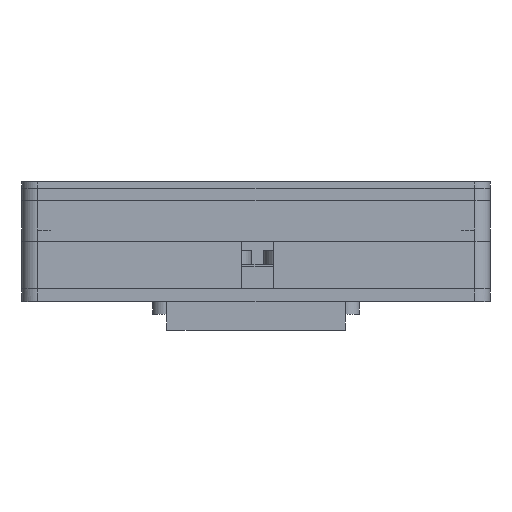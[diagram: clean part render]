
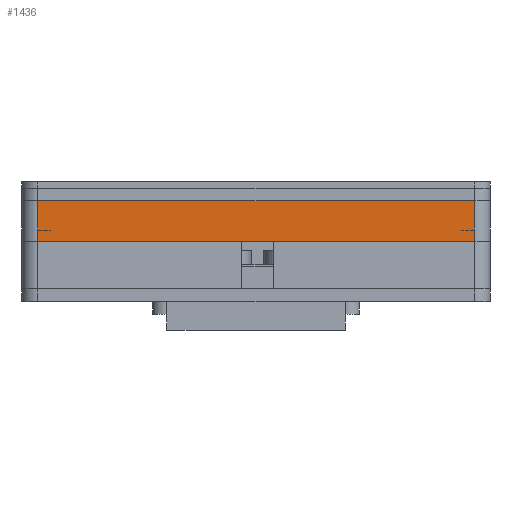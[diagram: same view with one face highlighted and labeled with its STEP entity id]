
A CAD part, front view. The second image highlights one B-rep face of the part: STEP entity #1436.
In plain terms, the highlighted free-form (B-spline) face has degree [2, 1] with [3, 2] control points.
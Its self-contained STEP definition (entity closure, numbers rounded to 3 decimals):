
#1436=ADVANCED_FACE('',(#2083),#10533,.T.);
#2083=FACE_OUTER_BOUND('',#2804,.T.);
#2804=EDGE_LOOP('',(#5197,#5198,#5199,#5200));
#5197=ORIENTED_EDGE('',*,*,#7113,.T.);
#5198=ORIENTED_EDGE('',*,*,#7100,.T.);
#5199=ORIENTED_EDGE('',*,*,#7114,.F.);
#5200=ORIENTED_EDGE('',*,*,#7111,.F.);
#7100=EDGE_CURVE('',#9710,#9713,#8574,.T.);
#7111=EDGE_CURVE('',#9720,#9721,#8585,.T.);
#7113=EDGE_CURVE('',#9720,#9710,#8587,.T.);
#7114=EDGE_CURVE('',#9721,#9713,#8588,.T.);
#8574=(
BOUNDED_CURVE()
B_SPLINE_CURVE(1,(#20016,#20017),.UNSPECIFIED.,.F.,.F.)
B_SPLINE_CURVE_WITH_KNOTS((2,2),(0.,6.3),.UNSPECIFIED.)
CURVE()
GEOMETRIC_REPRESENTATION_ITEM()
RATIONAL_B_SPLINE_CURVE((1.,1.))
REPRESENTATION_ITEM('')
);
#8585=(
BOUNDED_CURVE()
B_SPLINE_CURVE(1,(#20053,#20054),.UNSPECIFIED.,.F.,.F.)
B_SPLINE_CURVE_WITH_KNOTS((2,2),(0.,6.3),.UNSPECIFIED.)
CURVE()
GEOMETRIC_REPRESENTATION_ITEM()
RATIONAL_B_SPLINE_CURVE((1.,1.))
REPRESENTATION_ITEM('')
);
#8587=(
BOUNDED_CURVE()
B_SPLINE_CURVE(2,(#20058,#20059,#20060),.UNSPECIFIED.,.F.,.F.)
B_SPLINE_CURVE_WITH_KNOTS((3,3),(-25.167,-24.235),
 .UNSPECIFIED.)
CURVE()
GEOMETRIC_REPRESENTATION_ITEM()
RATIONAL_B_SPLINE_CURVE((1.,1.,1.))
REPRESENTATION_ITEM('')
);
#8588=(
BOUNDED_CURVE()
B_SPLINE_CURVE(2,(#20061,#20062,#20063),.UNSPECIFIED.,.F.,.F.)
B_SPLINE_CURVE_WITH_KNOTS((3,3),(-25.167,-24.235),
 .UNSPECIFIED.)
CURVE()
GEOMETRIC_REPRESENTATION_ITEM()
RATIONAL_B_SPLINE_CURVE((1.,1.,1.))
REPRESENTATION_ITEM('')
);
#9710=VERTEX_POINT('',#19980);
#9713=VERTEX_POINT('',#19983);
#9720=VERTEX_POINT('',#19990);
#9721=VERTEX_POINT('',#19991);
#10533=(
BOUNDED_SURFACE()
B_SPLINE_SURFACE(2,1,((#19924,#19925),(#19926,#19927),(#19928,#19929)),
 .UNSPECIFIED.,.F.,.F.,.F.)
B_SPLINE_SURFACE_WITH_KNOTS((3,3),(2,2),(-25.167,-24.235),
(0.,6.3),.UNSPECIFIED.)
GEOMETRIC_REPRESENTATION_ITEM()
RATIONAL_B_SPLINE_SURFACE(((1.,1.),(1.,1.),(1.,1.)))
REPRESENTATION_ITEM('')
SURFACE()
);
#19924=CARTESIAN_POINT('',(32069.342,-14230.89,15.8));
#19925=CARTESIAN_POINT('',(32069.342,-14230.89,9.5));
#19926=CARTESIAN_POINT('',(32035.092,-14230.89,15.8));
#19927=CARTESIAN_POINT('',(32035.092,-14230.89,9.5));
#19928=CARTESIAN_POINT('',(32000.842,-14230.89,15.8));
#19929=CARTESIAN_POINT('',(32000.842,-14230.89,9.5));
#19980=CARTESIAN_POINT('',(32000.842,-14230.89,15.8));
#19983=CARTESIAN_POINT('',(32000.842,-14230.89,9.5));
#19990=CARTESIAN_POINT('',(32069.342,-14230.89,15.8));
#19991=CARTESIAN_POINT('',(32069.342,-14230.89,9.5));
#20016=CARTESIAN_POINT('',(32000.842,-14230.89,15.8));
#20017=CARTESIAN_POINT('',(32000.842,-14230.89,9.5));
#20053=CARTESIAN_POINT('',(32069.342,-14230.89,15.8));
#20054=CARTESIAN_POINT('',(32069.342,-14230.89,9.5));
#20058=CARTESIAN_POINT('',(32069.342,-14230.89,15.8));
#20059=CARTESIAN_POINT('',(32035.092,-14230.89,15.8));
#20060=CARTESIAN_POINT('',(32000.842,-14230.89,15.8));
#20061=CARTESIAN_POINT('',(32069.342,-14230.89,9.5));
#20062=CARTESIAN_POINT('',(32035.092,-14230.89,9.5));
#20063=CARTESIAN_POINT('',(32000.842,-14230.89,9.5));
